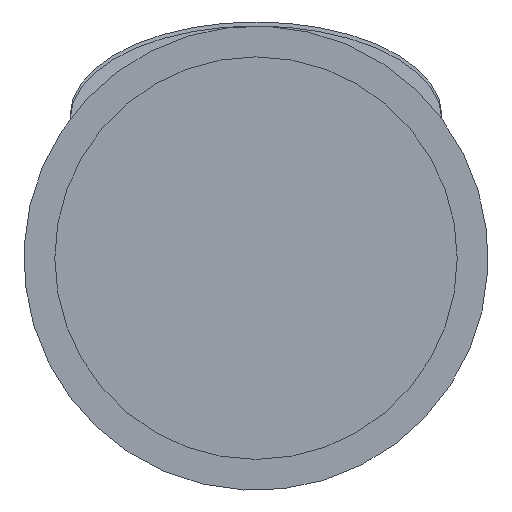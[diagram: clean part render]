
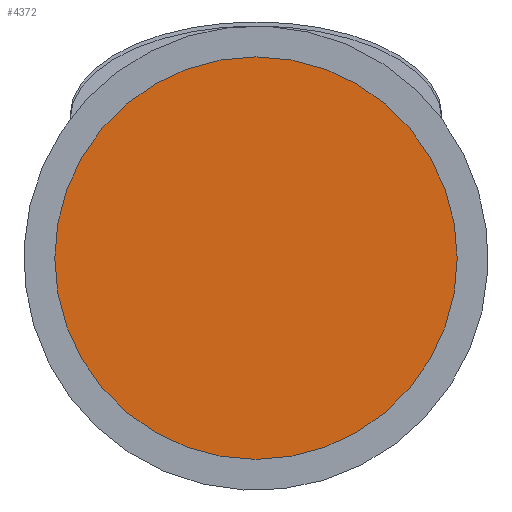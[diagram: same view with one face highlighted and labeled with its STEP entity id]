
A CAD part, front view. The second image highlights one B-rep face of the part: STEP entity #4372.
In plain terms, the highlighted planar face has unit normal (0, -1, 0).
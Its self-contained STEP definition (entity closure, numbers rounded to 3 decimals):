
#124=PLANE('',#4666);
#249=FACE_OUTER_BOUND('',#502,.T.);
#502=EDGE_LOOP('',(#2786));
#1473=CIRCLE('',#4664,130.);
#1730=VERTEX_POINT('',#6554);
#2153=EDGE_CURVE('',#1730,#1730,#1473,.T.);
#2786=ORIENTED_EDGE('',*,*,#2153,.F.);
#4372=ADVANCED_FACE('',(#249),#124,.F.);
#4664=AXIS2_PLACEMENT_3D('',#6555,#5189,#5190);
#4666=AXIS2_PLACEMENT_3D('',#6559,#5194,#5195);
#5189=DIRECTION('center_axis',(0.,1.,0.));
#5190=DIRECTION('ref_axis',(-1.,0.,0.));
#5194=DIRECTION('center_axis',(0.,1.,0.));
#5195=DIRECTION('ref_axis',(-1.,0.,0.));
#6554=CARTESIAN_POINT('',(130.,-6.,0.));
#6555=CARTESIAN_POINT('Origin',(0.,-6.,0.));
#6559=CARTESIAN_POINT('Origin',(0.,-6.,0.));
